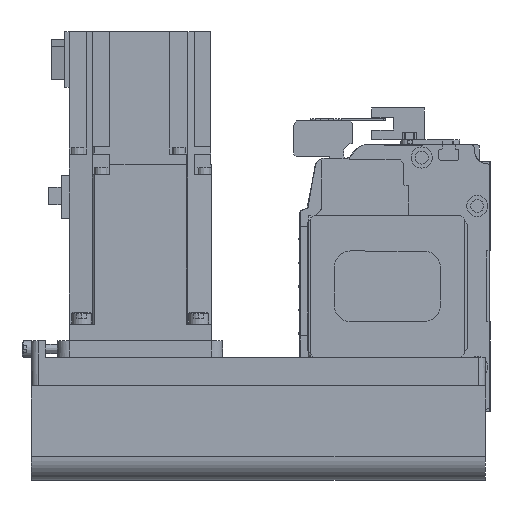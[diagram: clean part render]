
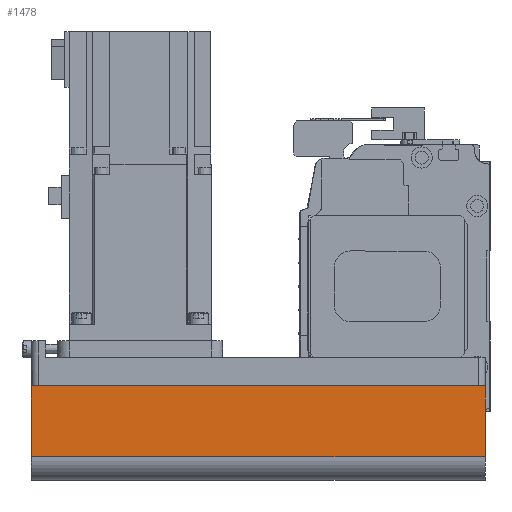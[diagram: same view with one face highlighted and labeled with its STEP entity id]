
A CAD part, left-side view. The second image highlights one B-rep face of the part: STEP entity #1478.
In plain terms, the highlighted planar face has unit normal (-1, 0, 0) as drawn and (0, -1, 0) by its records, which use the part's own axes.
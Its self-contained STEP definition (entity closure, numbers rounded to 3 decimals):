
#1478 = ADVANCED_FACE( '', ( #3482 ), #3483, .T. );
#3482 = FACE_OUTER_BOUND( '', #6090, .T. );
#3483 = PLANE( '', #6091 );
#6090 = EDGE_LOOP( '', ( #10175, #10176, #10177, #10178 ) );
#6091 = AXIS2_PLACEMENT_3D( '', #10179, #10180, #10181 );
#10175 = ORIENTED_EDGE( '', *, *, #15840, .F. );
#10176 = ORIENTED_EDGE( '', *, *, #15841, .F. );
#10177 = ORIENTED_EDGE( '', *, *, #15842, .T. );
#10178 = ORIENTED_EDGE( '', *, *, #14805, .T. );
#10179 = CARTESIAN_POINT( '', ( -192., -40., -12.1 ) );
#10180 = DIRECTION( '', ( 0., -1., 0. ) );
#10181 = DIRECTION( '', ( 0., 0., -1. ) );
#14805 = EDGE_CURVE( '', #17653, #17650, #17654, .T. );
#15840 = EDGE_CURVE( '', #19326, #17650, #19327, .T. );
#15841 = EDGE_CURVE( '', #19328, #19326, #19329, .T. );
#15842 = EDGE_CURVE( '', #19328, #17653, #19330, .T. );
#17650 = VERTEX_POINT( '', #21640 );
#17653 = VERTEX_POINT( '', #21643 );
#17654 = LINE( '', #21644, #21645 );
#19326 = VERTEX_POINT( '', #23884 );
#19327 = LINE( '', #23885, #23886 );
#19328 = VERTEX_POINT( '', #23887 );
#19329 = LINE( '', #23888, #23889 );
#19330 = LINE( '', #23890, #23891 );
#21640 = CARTESIAN_POINT( '', ( 0., -40., -42. ) );
#21643 = CARTESIAN_POINT( '', ( -192., -40., -42. ) );
#21644 = CARTESIAN_POINT( '', ( -192., -40., -42. ) );
#21645 = VECTOR( '', #26449, 1000. );
#23884 = CARTESIAN_POINT( '', ( 0., -40., -12.1 ) );
#23885 = CARTESIAN_POINT( '', ( 0., -40., -12.1 ) );
#23886 = VECTOR( '', #27758, 1000. );
#23887 = CARTESIAN_POINT( '', ( -192., -40., -12.1 ) );
#23888 = CARTESIAN_POINT( '', ( -192., -40., -12.1 ) );
#23889 = VECTOR( '', #27759, 1000. );
#23890 = CARTESIAN_POINT( '', ( -192., -40., -12.1 ) );
#23891 = VECTOR( '', #27760, 1000. );
#26449 = DIRECTION( '', ( 1., 0., 0. ) );
#27758 = DIRECTION( '', ( 0., 0., -1. ) );
#27759 = DIRECTION( '', ( 1., 0., 0. ) );
#27760 = DIRECTION( '', ( 0., 0., -1. ) );
